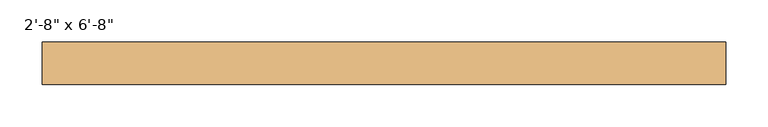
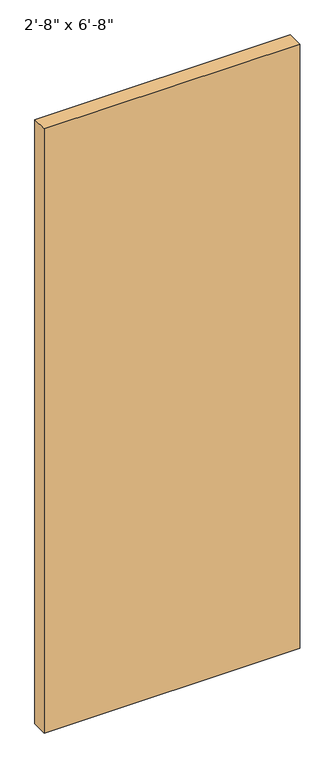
"""IFC4 building model written with IfcOpenShell, lengths in millimetres: door geometry."""

import ifcopenshell
import ifcopenshell.guid

model = None  # the IFC model being written
_history = None  # IfcOwnerHistory: only IFC2X3 demands one
_inside = {}  # id of a spatial element -> (the spatial element, [elements in it])
_under = {}  # id of a project, library or spatial element -> (it, [spatial elements below it])
_declared = {}  # id of a project -> (the project, [libraries it declares])
_typed = {}  # id of a type object -> (the type object, [elements of that type])
_made_of = {}  # id of a material, layer set ... -> (it, [elements and type objects made of it])


def new_model(schema):
    """Start an empty IFC model of exactly this schema.

    Asked for "IFC4X3", IfcOpenShell would pick the latest addendum, in which some entities
    have other attributes; the version numbers below select the first issue.
    IFC2X3 requires an IfcOwnerHistory on every rooted entity: one is made here for all.
    """
    global model, _history
    if schema == "IFC4X3":
        model = ifcopenshell.file(schema_version=(4, 3, 0, 0))
    else:
        model = ifcopenshell.file(schema=schema)
    _inside.clear()
    _under.clear()
    _declared.clear()
    _typed.clear()
    _made_of.clear()
    _history = None
    if model.schema == "IFC2X3":
        org = make("IfcOrganization", Name="unknown")
        user = make(
            "IfcPersonAndOrganization",
            ThePerson=make("IfcPerson", FamilyName="unknown"),
            TheOrganization=org,
        )
        app = make(
            "IfcApplication",
            ApplicationDeveloper=org,
            Version="unknown",
            ApplicationFullName="unknown",
            ApplicationIdentifier="unknown",
        )
        _history = make(
            "IfcOwnerHistory",
            OwningUser=user,
            OwningApplication=app,
            ChangeAction="ADDED",
            CreationDate=0,
        )
    return model


def make(cls, **values):
    """One entity of the class cls with the attributes given. An attribute that is None is left unset."""
    return model.create_entity(
        cls, **{name: value for name, value in values.items() if value is not None}
    )


def rooted(cls, **values):
    """An entity with a GlobalId (a new one), such as an element, a storey or a relation."""
    return make(cls, GlobalId=ifcopenshell.guid.new(), OwnerHistory=_history, **values)


def si_unit(unit_type, name, prefix=None):
    """IfcSIUnit, for example si_unit("LENGTHUNIT", "METRE", prefix="MILLI")."""
    return make("IfcSIUnit", UnitType=unit_type, Prefix=prefix, Name=name)


def assignment(units):
    """IfcUnitAssignment: the units of a project."""
    return None if units is None else make("IfcUnitAssignment", Units=units)


def point(xyz):
    """IfcCartesianPoint."""
    return None if xyz is None else make("IfcCartesianPoint", Coordinates=xyz)


def direction(xyz):
    """IfcDirection."""
    return None if xyz is None else make("IfcDirection", DirectionRatios=xyz)


def frame(location, z_axis=None, x_axis=None):
    """IfcAxis2Placement3D, a coordinate frame: its origin and axes. An axis left out is left unset."""
    return make(
        "IfcAxis2Placement3D",
        Location=point(location),
        Axis=direction(z_axis),
        RefDirection=direction(x_axis),
    )


def origin():
    """The frame at (0, 0, 0) with its axes left unset."""
    return frame((0.0, 0.0, 0.0))


def origin_with_axes():
    """The frame at (0, 0, 0) with the z axis (0, 0, 1) and the x axis (1, 0, 0) written out."""
    return frame((0.0, 0.0, 0.0), z_axis=(0.0, 0.0, 1.0), x_axis=(1.0, 0.0, 0.0))


def place(relative_to, where):
    """IfcLocalPlacement: puts the frame where relative to a parent placement (None: the world)."""
    return make(
        "IfcLocalPlacement", PlacementRelTo=relative_to, RelativePlacement=where
    )


def context(
    kind, dimensions, precision=None, world=None, true_north=None, identifier=None
):
    """IfcGeometricRepresentationContext, for example the 3D "Model" context."""
    return make(
        "IfcGeometricRepresentationContext",
        ContextIdentifier=identifier,
        ContextType=kind,
        CoordinateSpaceDimension=dimensions,
        Precision=precision,
        WorldCoordinateSystem=world,
        TrueNorth=true_north,
    )


def project(units=None, contexts=None):
    """IfcProject with its units and contexts."""
    return rooted(
        "IfcProject",
        Name="project",
        RepresentationContexts=contexts,
        UnitsInContext=assignment(units),
    )


def spatial(cls, under=None, at=None, **own):
    """A site, building, storey or space (cls), placed at a placement, below another one or the project."""
    s = rooted(cls, ObjectPlacement=at, **own)
    if under is not None:
        _under.setdefault(under.id(), (under, []))[1].append(s)
    return s


def polyline(points):
    """IfcPolyline through the points."""
    return make("IfcPolyline", Points=[point(p) for p in points])


def outline(outer, holes=None, kind="AREA"):
    """IfcArbitraryClosedProfileDef: a profile drawn as a closed curve; with holes, ...WithVoids."""
    if holes is None:
        return make("IfcArbitraryClosedProfileDef", ProfileType=kind, OuterCurve=outer)
    return make(
        "IfcArbitraryProfileDefWithVoids",
        ProfileType=kind,
        OuterCurve=outer,
        InnerCurves=holes,
    )


def extrude(swept, where, along, depth):
    """IfcExtrudedAreaSolid: the profile swept, set in the frame where, extruded along a direction by depth."""
    return make(
        "IfcExtrudedAreaSolid",
        SweptArea=swept,
        Position=where,
        ExtrudedDirection=direction(along),
        Depth=depth,
    )


def shape(context_of_items, identifier, shape_type, items):
    """IfcShapeRepresentation: the items that make up one representation, for example the "Body"."""
    return make(
        "IfcShapeRepresentation",
        ContextOfItems=context_of_items,
        RepresentationIdentifier=identifier,
        RepresentationType=shape_type,
        Items=items,
    )


def source(mapping_origin, context_of_items, identifier, shape_type, items):
    """IfcRepresentationMap: a shape defined once, which mapped items show again and again."""
    return make(
        "IfcRepresentationMap",
        MappingOrigin=mapping_origin,
        MappedRepresentation=shape(context_of_items, identifier, shape_type, items),
    )


def transform(
    local_origin,
    x_axis=None,
    y_axis=None,
    z_axis=None,
    scale=None,
    scale2=None,
    scale3=None,
    uniform=True,
):
    """IfcCartesianTransformationOperator3D, or its non-uniform kind. x_axis, y_axis, z_axis: its Axis1, 2, 3."""
    if uniform:
        return make(
            "IfcCartesianTransformationOperator3D",
            Axis1=direction(x_axis),
            Axis2=direction(y_axis),
            LocalOrigin=point(local_origin),
            Scale=scale,
            Axis3=direction(z_axis),
        )
    return make(
        "IfcCartesianTransformationOperator3DnonUniform",
        Axis1=direction(x_axis),
        Axis2=direction(y_axis),
        LocalOrigin=point(local_origin),
        Scale=scale,
        Axis3=direction(z_axis),
        Scale2=scale2,
        Scale3=scale3,
    )


def mapped(mapping_source, mapping_target):
    """IfcMappedItem: shows the shape of a source again, moved by a transform."""
    return make(
        "IfcMappedItem", MappingSource=mapping_source, MappingTarget=mapping_target
    )


def made_of(thing, what):
    """Note that an element or type object is made of a material, layer set ...; save() writes the relation."""
    if what is not None:
        _made_of.setdefault(what.id(), (what, []))[1].append(thing)
    return thing


def element(
    cls,
    number,
    at=None,
    inside=None,
    cuts=None,
    type_object=None,
    material=None,
    context=None,
    identifier="Body",
    shape_type=None,
    held_by="IfcProductDefinitionShape",
    body=None,
    shapes=None,
    **own,
):
    """One element of the class cls, such as IfcWall. Its Tag is "e" and its number.

    at: its placement. inside: the storey or other place that contains it. cuts: it is an
    opening in that element (IfcRelVoidsElement). A single representation is given by context,
    identifier, shape_type and body (its items); several are given by shapes. held_by: the class
    of the entity that holds the representations. save() writes the other relations.
    """
    e = rooted(cls, Tag="e%d" % number, ObjectPlacement=at, **own)
    if body is not None:
        shapes = [shape(context, identifier, shape_type, body)]
    if shapes is not None:
        e.Representation = make(held_by, Representations=shapes)
    if inside is not None:
        _inside.setdefault(inside.id(), (inside, []))[1].append(e)
    if cuts is not None:
        rooted(
            "IfcRelVoidsElement", RelatingBuildingElement=cuts, RelatedOpeningElement=e
        )
    if type_object is not None:
        _typed.setdefault(type_object.id(), (type_object, []))[1].append(e)
    return made_of(e, material)


def aggregate(whole, parts):
    """IfcRelAggregates: a whole, such as a stair, and the parts it consists of."""
    return rooted("IfcRelAggregates", RelatingObject=whole, RelatedObjects=parts)


def save(model, path):
    """Write the relations noted so far, then the file.

    IfcRelAggregates (storeys below a building ...), IfcRelContainedInSpatialStructure (elements
    in a storey), IfcRelDefinesByType, IfcRelAssociatesMaterial and IfcRelDeclares: one each for
    every whole, place, type object, material and project.
    """
    for whole, parts in _under.values():
        aggregate(whole, parts)
    for where, things in _inside.values():
        rooted(
            "IfcRelContainedInSpatialStructure",
            RelatedElements=things,
            RelatingStructure=where,
        )
    for kind, things in _typed.values():
        rooted("IfcRelDefinesByType", RelatedObjects=things, RelatingType=kind)
    for what, things in _made_of.values():
        rooted("IfcRelAssociatesMaterial", RelatedObjects=things, RelatingMaterial=what)
    for by, libraries in _declared.values():
        rooted("IfcRelDeclares", RelatingContext=by, RelatedDefinitions=libraries)
    model.write(path)


def door_841b6bda(model_context):
    return source(origin(), model_context, "Body", "SweptSolid", [
        extrude(outline(polyline([(406.4, -25.2), (406.4, -76.2), (-406.4, -76.2), (-406.4, -25.2), (406.4, -25.2)])), origin_with_axes(), (0.0, 0.0, 1.0), 2032.0),
    ])


if __name__ == "__main__":
    model = new_model("IFC4")
    model_context = context("Model", 3, world=origin())
    ifc_project = project(units=[si_unit("LENGTHUNIT", "METRE", prefix="MILLI")], contexts=[model_context])
    site = spatial("IfcSite", under=ifc_project)
    building = spatial("IfcBuilding", under=site)
    placement = place(None, origin())
    door_shape = door_841b6bda(model_context)
    element("IfcDoor", 1, ObjectType="Planitar - Single Door_Flush Panel : 2'-8\" x 6'-8\"", at=placement, inside=building, context=model_context, shape_type="MappedRepresentation", body=[
        mapped(door_shape, transform((0.0, 0.0, 0.0), x_axis=(1.0, 0.0, 0.0), y_axis=(0.0, 1.0, 0.0), z_axis=(0.0, 0.0, 1.0))),
    ])
    save(model, "model.ifc")
